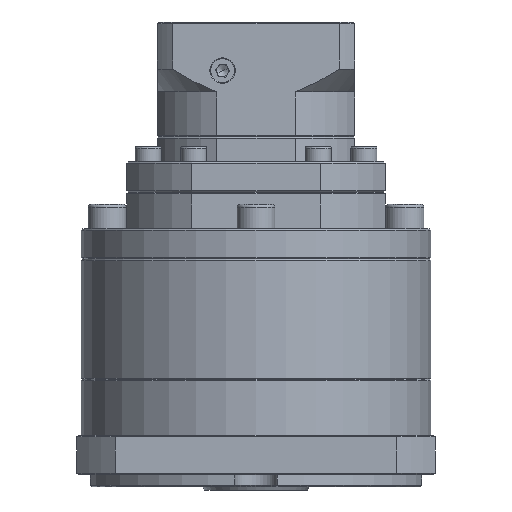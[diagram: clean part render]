
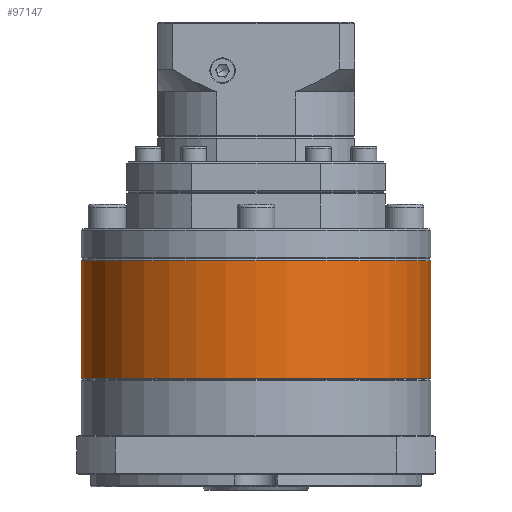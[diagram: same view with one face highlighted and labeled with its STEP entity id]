
A CAD part, front view. The second image highlights one B-rep face of the part: STEP entity #97147.
In plain terms, the highlighted cylindrical face has radius 57.5 mm (diameter 115 mm), a partial arc.
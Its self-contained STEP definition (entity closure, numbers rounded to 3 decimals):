
#77 = EDGE_LOOP ( 'NONE', ( #4792, #111967, #128155, #84690 ) ) ;
#4792 = ORIENTED_EDGE ( 'NONE', *, *, #21918, .F. ) ;
#10085 = CIRCLE ( 'NONE', #36387, 57.5 ) ;
#10817 = DIRECTION ( 'NONE',  ( -1., 0., 0. ) ) ;
#12562 = VECTOR ( 'NONE', #59838, 1000. ) ;
#13574 = DIRECTION ( 'NONE',  ( 0., 0., -1. ) ) ;
#21918 = EDGE_CURVE ( 'NONE', #126098, #57820, #63215, .T. ) ;
#25391 = CARTESIAN_POINT ( 'NONE',  ( 1.248, 109.958, -128.815 ) ) ;
#25786 = CARTESIAN_POINT ( 'NONE',  ( 58.748, 109.958, -89.603 ) ) ;
#28387 = CARTESIAN_POINT ( 'NONE',  ( 116.248, 109.958, -128.815 ) ) ;
#29459 = DIRECTION ( 'NONE',  ( -1., 0., 0. ) ) ;
#30626 = CARTESIAN_POINT ( 'NONE',  ( 58.748, 109.958, -90.103 ) ) ;
#30772 = EDGE_CURVE ( 'NONE', #62173, #57820, #36929, .T. ) ;
#36387 = AXIS2_PLACEMENT_3D ( 'NONE', #30626, #121481, #10817 ) ;
#36929 = CIRCLE ( 'NONE', #121875, 57.5 ) ;
#38489 = AXIS2_PLACEMENT_3D ( 'NONE', #25786, #107420, #105729 ) ;
#45703 = LINE ( 'NONE', #91669, #12562 ) ;
#55914 = CARTESIAN_POINT ( 'NONE',  ( 1.248, 109.958, -90.103 ) ) ;
#57820 = VERTEX_POINT ( 'NONE', #28387 ) ;
#59006 = CARTESIAN_POINT ( 'NONE',  ( 58.748, 109.958, -128.815 ) ) ;
#59838 = DIRECTION ( 'NONE',  ( 0., 0., -1. ) ) ;
#61685 = VECTOR ( 'NONE', #13574, 1000. ) ;
#62173 = VERTEX_POINT ( 'NONE', #25391 ) ;
#63215 = LINE ( 'NONE', #73891, #61685 ) ;
#68520 = CARTESIAN_POINT ( 'NONE',  ( 116.248, 109.958, -90.103 ) ) ;
#73891 = CARTESIAN_POINT ( 'NONE',  ( 116.248, 109.958, -89.603 ) ) ;
#81813 = CYLINDRICAL_SURFACE ( 'NONE', #38489, 57.5 ) ;
#84690 = ORIENTED_EDGE ( 'NONE', *, *, #30772, .T. ) ;
#91669 = CARTESIAN_POINT ( 'NONE',  ( 1.248, 109.958, -89.603 ) ) ;
#97147 = ADVANCED_FACE ( 'NONE', ( #111879 ), #81813, .T. ) ;
#105729 = DIRECTION ( 'NONE',  ( -1., 0., 0. ) ) ;
#107420 = DIRECTION ( 'NONE',  ( 0., 0., -1. ) ) ;
#111879 = FACE_OUTER_BOUND ( 'NONE', #77, .T. ) ;
#111967 = ORIENTED_EDGE ( 'NONE', *, *, #115455, .T. ) ;
#113318 = EDGE_CURVE ( 'NONE', #123425, #62173, #45703, .T. ) ;
#115455 = EDGE_CURVE ( 'NONE', #126098, #123425, #10085, .T. ) ;
#121481 = DIRECTION ( 'NONE',  ( 0., 0., -1. ) ) ;
#121875 = AXIS2_PLACEMENT_3D ( 'NONE', #59006, #128652, #29459 ) ;
#123425 = VERTEX_POINT ( 'NONE', #55914 ) ;
#126098 = VERTEX_POINT ( 'NONE', #68520 ) ;
#128155 = ORIENTED_EDGE ( 'NONE', *, *, #113318, .T. ) ;
#128652 = DIRECTION ( 'NONE',  ( 0., 0., 1. ) ) ;
